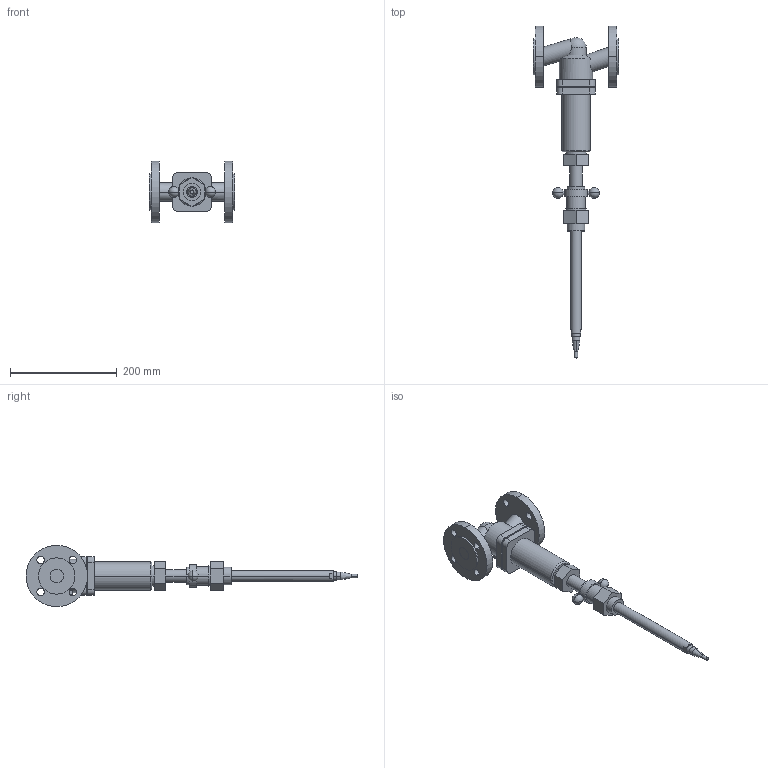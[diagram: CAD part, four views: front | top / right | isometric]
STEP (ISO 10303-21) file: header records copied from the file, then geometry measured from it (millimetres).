
FILE_DESCRIPTION(('CoCreate Modeling STEP Export'),'2;1');
FILE_NAME('c000001238.stp','2011-09-21T 9:19:05',(''),(''),'CoCreate Modeling STEP processor for AP214 (Solid Model)','CoCreate Modeling 17.0 01-Apr-2010 (C) Parametric Technology GmbH','');
FILE_SCHEMA(('AUTOMOTIVE_DESIGN { 1 0 10303 214 1 1 1 1 }'));
Length unit declared in the file: millimetre
Products named in the file (1): 1
Bounding box: 160 x 621.05 x 115 mm (x, y, z)
Volume: 1172725.5 mm3; surface area: 152647 mm2
Topology: 1 solids, 1 shells, 154 faces, 385 edges, 248 vertices
Faces by surface type: cylinder 74, plane 64, sphere 10, cone 4, torus 2
Entity records: 7394 total; most frequent: CARTESIAN_POINT 2785, ORIENTED_EDGE 750, DIRECTION 609, EDGE_CURVE 375, VERTEX_POINT 248, AXIS2_PLACEMENT_3D 216, EDGE_LOOP 195, VECTOR 177
